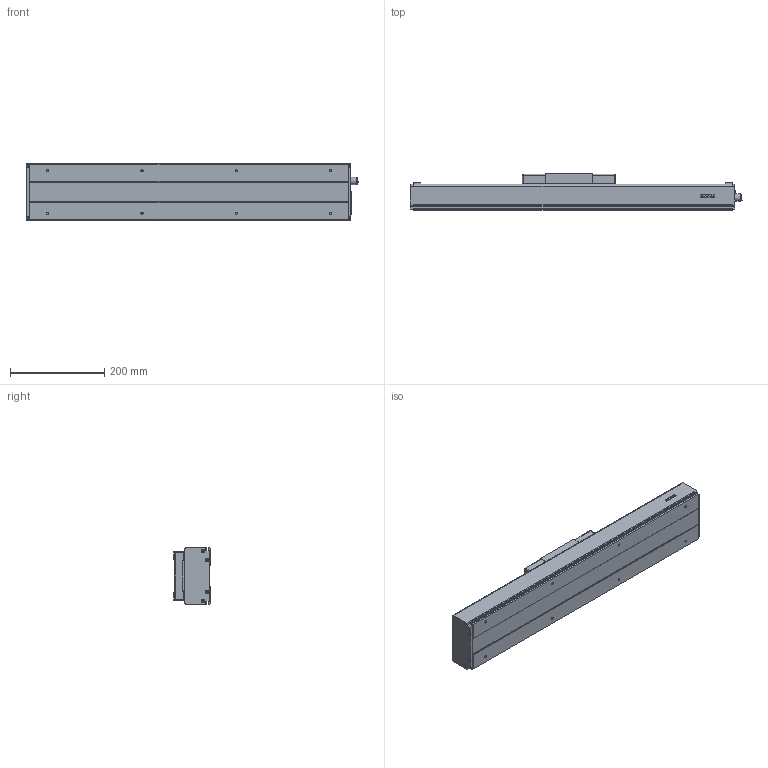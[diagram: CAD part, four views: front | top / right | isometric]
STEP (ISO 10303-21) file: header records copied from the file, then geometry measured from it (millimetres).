
FILE_DESCRIPTION(/* description */ (''),/* implementation_level */ '2;1');
FILE_NAME(/* name */ 'D:\混合母檔20191031\混和母檔\混和母檔\bin\Debug\Download\3D\KS120-20C-200AFI\KS120-20C-200AFI.stp',/* time_stamp */ '2019-11-04T15:20:45+08:00',/* author */ ('user'),/* organization */ (''),/* preprocessor_version */ 'ST-DEVELOPER v16.13',/* originating_system */ 'Autodesk Inventor 2018',/* authorisation */ '');
FILE_SCHEMA (('AUTOMOTIVE_DESIGN { 1 0 10303 214 3 1 1 }'));
Length unit declared in the file: millimetre
Products named in the file (3): KS120-20C-200AFI; KS120-FI; KS120-SL
Assembly tree (2 placements, depth 2):
  KS120-20C-200AFI
    KS120-FI
    KS120-SL
Bounding box: 704.5 x 77 x 120 mm (x, y, z)
Volume: 1857771.6 mm3; surface area: 584046.2 mm2
Topology: 4 solids, 11 shells, 987 faces, 2529 edges, 1632 vertices
Faces by surface type: plane 575, cylinder 182, bspline 136, cone 76, torus 14, sphere 4
Full cylindrical faces by diameter (mm): 2.459 x6, 3.242 x4, 4 x32, 4.3 x4, 4.5 x12, 4.917 x8, 6 x6, 7 x4, 8 x9, 8.4 x12, 10.437 x1, 12 x2, 14 x1, 15 x1, 15.538 x1, 19 x1, 28 x1, 30 x1
Entity records: 32793 total; most frequent: CARTESIAN_POINT 10578, ORIENTED_EDGE 4530, DIRECTION 4129, EDGE_CURVE 2263, VERTEX_POINT 1554, LINE 1525, VECTOR 1525, AXIS2_PLACEMENT_3D 1302
